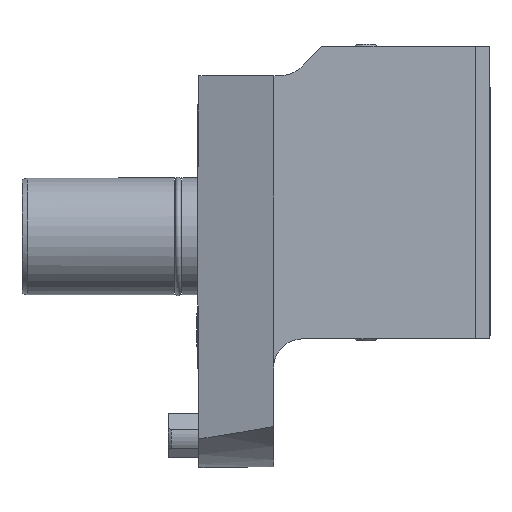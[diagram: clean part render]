
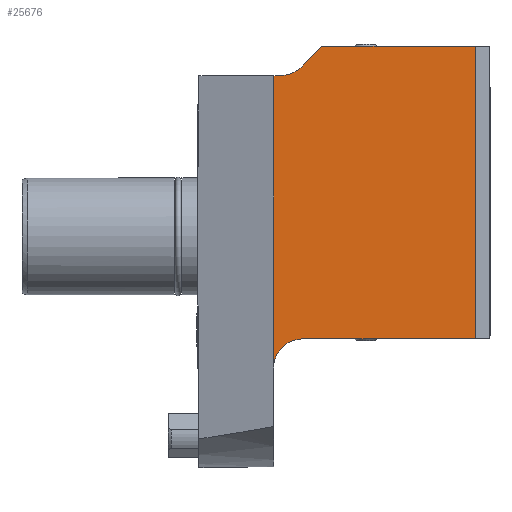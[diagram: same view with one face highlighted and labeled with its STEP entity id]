
A CAD part, front view. The second image highlights one B-rep face of the part: STEP entity #25676.
In plain terms, the highlighted planar face has unit normal (0, -1, 0).
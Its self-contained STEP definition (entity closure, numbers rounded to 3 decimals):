
#10455=VECTOR('',#18297,1.);
#10459=VECTOR('',#18303,1.);
#10466=VECTOR('',#18318,1.);
#10469=VECTOR('',#18325,1.);
#10470=VECTOR('',#18326,1.);
#10471=VECTOR('',#18327,1.);
#10851=LINE('',#20612,#10455);
#10855=LINE('',#20621,#10459);
#10862=LINE('',#20640,#10466);
#10865=LINE('',#20647,#10469);
#10866=LINE('',#20649,#10470);
#10867=LINE('',#20650,#10471);
#12511=ORIENTED_EDGE('',*,*,#14812,.T.);
#12512=ORIENTED_EDGE('',*,*,#14808,.F.);
#12513=ORIENTED_EDGE('',*,*,#14824,.T.);
#12514=ORIENTED_EDGE('',*,*,#14825,.T.);
#12515=ORIENTED_EDGE('',*,*,#14826,.T.);
#12516=ORIENTED_EDGE('',*,*,#14827,.T.);
#12517=ORIENTED_EDGE('',*,*,#14821,.T.);
#12518=ORIENTED_EDGE('',*,*,#14828,.T.);
#13289=CIRCLE('',#24757,10.);
#13290=CIRCLE('',#24758,10.);
#13892=VERTEX_POINT('',#20596);
#13899=VERTEX_POINT('',#20610);
#13903=VERTEX_POINT('',#20620);
#13910=VERTEX_POINT('',#20638);
#13911=VERTEX_POINT('',#20639);
#13912=VERTEX_POINT('',#20644);
#13913=VERTEX_POINT('',#20646);
#13914=VERTEX_POINT('',#20648);
#14808=EDGE_CURVE('',#13899,#13892,#10851,.T.);
#14812=EDGE_CURVE('',#13903,#13892,#10855,.T.);
#14821=EDGE_CURVE('',#13910,#13911,#10862,.T.);
#14824=EDGE_CURVE('',#13899,#13912,#13289,.T.);
#14825=EDGE_CURVE('',#13912,#13913,#10865,.T.);
#14826=EDGE_CURVE('',#13913,#13914,#10866,.T.);
#14827=EDGE_CURVE('',#13914,#13910,#10867,.T.);
#14828=EDGE_CURVE('',#13911,#13903,#13290,.T.);
#15467=EDGE_LOOP('',(#12511,#12512,#12513,#12514,#12515,#12516,#12517,#12518));
#16142=FACE_BOUND('',#15467,.T.);
#18297=DIRECTION('',(-98.428,0.,0.));
#18303=DIRECTION('',(0.,0.,-2.234));
#18318=DIRECTION('',(7.071,0.,-7.071));
#18321=DIRECTION('',(0.,-1.,0.));
#18322=DIRECTION('',(-1.,0.,0.));
#18323=DIRECTION('',(0.,1.,0.));
#18324=DIRECTION('',(10.,0.,0.));
#18325=DIRECTION('',(0.,0.,59.));
#18326=DIRECTION('',(-100.,0.,0.));
#18327=DIRECTION('',(0.,0.,-52.5));
#18328=DIRECTION('',(0.,1.,0.));
#18329=DIRECTION('',(10.,0.,0.));
#20596=CARTESIAN_POINT('',(-55.,-45.,86.124));
#20610=CARTESIAN_POINT('',(43.428,-45.,86.124));
#20612=CARTESIAN_POINT('',(43.428,-45.,86.124));
#20620=CARTESIAN_POINT('',(-55.,-45.,88.358));
#20621=CARTESIAN_POINT('',(-55.,-45.,88.358));
#20638=CARTESIAN_POINT('',(-65.,-45.,102.5));
#20639=CARTESIAN_POINT('',(-57.929,-45.,95.429));
#20640=CARTESIAN_POINT('',(-65.,-45.,102.5));
#20643=CARTESIAN_POINT('',(35.,-45.,86.124));
#20644=CARTESIAN_POINT('',(35.,-45.,96.));
#20645=CARTESIAN_POINT('',(45.,-45.,96.));
#20646=CARTESIAN_POINT('',(35.,-45.,155.));
#20647=CARTESIAN_POINT('',(35.,-45.,96.));
#20648=CARTESIAN_POINT('',(-65.,-45.,155.));
#20649=CARTESIAN_POINT('',(35.,-45.,155.));
#20650=CARTESIAN_POINT('',(-65.,-45.,155.));
#20651=CARTESIAN_POINT('',(-65.,-45.,88.358));
#24756=AXIS2_PLACEMENT_3D('',#20643,#18321,#18322);
#24757=AXIS2_PLACEMENT_3D('',#20645,#18323,#18324);
#24758=AXIS2_PLACEMENT_3D('',#20651,#18328,#18329);
#25281=PLANE('',#24756);
#25676=ADVANCED_FACE('',(#16142),#25281,.T.);
